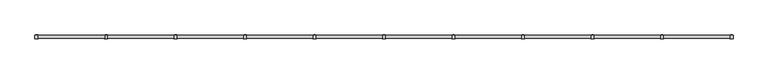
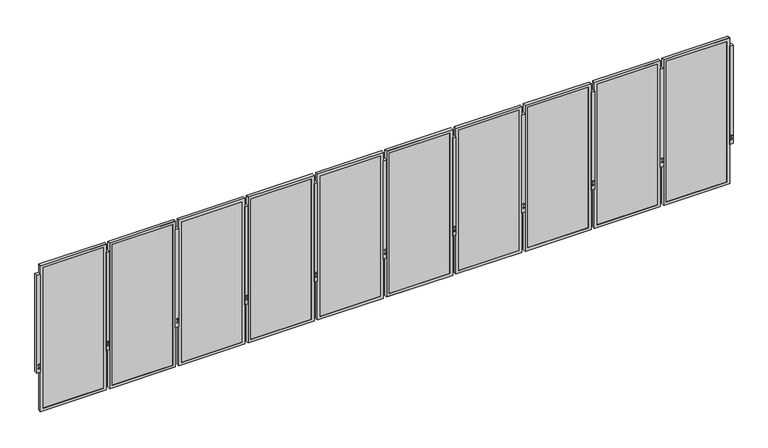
"""IFC4 building model written with IfcOpenShell, lengths in millimetres: railing geometry."""

from ifc_helpers import new_model, si_unit, frame, origin, place, context, project, spatial, polyline, outline, extrude, faceted_brep, source, transform, mapped, element, save


def railing_7f5f2e83(model_context):
    return source(origin(), model_context, "Body", "SolidModel", [
        extrude(outline(polyline([(-3162.0931556, -37308.528618), (-3111.2931556, -37308.528618), (-3111.2931556, -37359.328618), (-3162.0931556, -37359.328618), (-3162.0931556, -37308.528618)])), frame((0.0, 0.0, -609.6), z_axis=(0.0, 0.0, 1.0), x_axis=(1.0, 0.0, 0.0)), (0.0, 0.0, 1.0), 1524.0),
        extrude(outline(polyline([(-530.1129981, -3147.1137258), (-542.3802561, -3143.8267239), (-545.667258, -3131.5594659), (-536.6870019, -3122.5792098), (-524.4197439, -3125.8662117), (-521.132742, -3138.1334696), (-530.1129981, -3147.1137258)])), frame((0.0, -37361.1753058, 0.0), z_axis=(0.0, 1.0, 0.0), x_axis=(0.0, 0.0, 1.0)), (0.0, 0.0, 1.0), 54.4933756),
        extrude(outline(polyline([(-479.3129981, -3147.1137258), (-491.5802561, -3143.8267239), (-494.867258, -3131.5594659), (-485.8870019, -3122.5792098), (-473.6197439, -3125.8662117), (-470.332742, -3138.1334696), (-479.3129981, -3147.1137258)])), frame((0.0, -37361.1753058, 0.0), z_axis=(0.0, 1.0, 0.0), x_axis=(0.0, 0.0, 1.0)), (0.0, 0.0, 1.0), 54.4933756),
        faceted_brep([(-4128.497609, -37355.721818, -1222.375), (-3160.122609, -37355.721818, -1222.375), (-3160.122609, -37355.721818, 1044.575), (-4128.497609, -37355.721818, 1044.575), (-4087.222609, -37355.721818, 1003.3), (-3201.397609, -37355.721818, 1003.3), (-3201.397609, -37355.721818, -1181.1), (-4087.222609, -37355.721818, -1181.1), (-4087.222609, -37352.978618, 1003.3), (-4087.222609, -37352.978618, -1181.1), (-4128.497609, -37311.8485215, 1044.575), (-4128.497609, -37311.8485215, -1222.375), (-4125.322609, -37311.8485215, 1041.4), (-4125.322609, -37352.978618, 1041.4), (-4125.322609, -37352.978618, -1219.2), (-4125.322609, -37311.8485215, -1219.2), (-3201.397609, -37352.978618, -1181.1), (-3160.122609, -37311.8485215, -1222.375), (-3163.297609, -37352.978618, -1219.2), (-3163.297609, -37311.8485215, -1219.2), (-3201.397609, -37352.978618, 1003.3), (-3160.122609, -37311.8485215, 1044.575), (-3163.297609, -37352.978618, 1041.4), (-3163.297609, -37311.8485215, 1041.4)], [[[0, 1, 2, 3], [4, 5, 6, 7]], [[8, 4, 7, 9]], [[3, 10, 11, 0]], [[12, 13, 14, 15]], [[9, 7, 6, 16]], [[0, 11, 17, 1]], [[15, 14, 18, 19]], [[16, 6, 5, 20]], [[1, 17, 21, 2]], [[19, 18, 22, 23]], [[20, 5, 4, 8]], [[10, 21, 17, 11], [15, 19, 23, 12]], [[2, 21, 10, 3]], [[13, 22, 18, 14], [9, 16, 20, 8]], [[23, 22, 13, 12]]]),
        extrude(outline(polyline([(-4125.322609, -37343.453618), (-3163.297609, -37343.453618), (-3163.297609, -37352.978618), (-4125.322609, -37352.978618), (-4125.322609, -37343.453618)])), frame((0.0, 0.0, -1219.2), z_axis=(0.0, 0.0, 1.0), x_axis=(1.0, 0.0, 0.0)), (0.0, 0.0, 1.0), 2260.6),
        extrude(outline(polyline([(-4179.6806556, -37308.528618), (-4128.8806556, -37308.528618), (-4128.8806556, -37359.328618), (-4179.6806556, -37359.328618), (-4179.6806556, -37308.528618)])), frame((0.0, 0.0, -609.6), z_axis=(0.0, 0.0, 1.0), x_axis=(1.0, 0.0, 0.0)), (0.0, 0.0, 1.0), 1524.0),
        extrude(outline(polyline([(-530.1129981, -4164.7012258), (-542.3802561, -4161.4142239), (-545.667258, -4149.1469659), (-536.6870019, -4140.1667098), (-524.4197439, -4143.4537117), (-521.132742, -4155.7209696), (-530.1129981, -4164.7012258)])), frame((0.0, -37361.1753058, 0.0), z_axis=(0.0, 1.0, 0.0), x_axis=(0.0, 0.0, 1.0)), (0.0, 0.0, 1.0), 54.4933756),
        extrude(outline(polyline([(-479.3129981, -4164.7012258), (-491.5802561, -4161.4142239), (-494.867258, -4149.1469659), (-485.8870019, -4140.1667098), (-473.6197439, -4143.4537117), (-470.332742, -4155.7209696), (-479.3129981, -4164.7012258)])), frame((0.0, -37361.1753058, 0.0), z_axis=(0.0, 1.0, 0.0), x_axis=(0.0, 0.0, 1.0)), (0.0, 0.0, 1.0), 54.4933756),
        faceted_brep([(-5146.085109, -37355.721818, -1222.375), (-4177.710109, -37355.721818, -1222.375), (-4177.710109, -37355.721818, 1044.575), (-5146.085109, -37355.721818, 1044.575), (-5104.810109, -37355.721818, 1003.3), (-4218.985109, -37355.721818, 1003.3), (-4218.985109, -37355.721818, -1181.1), (-5104.810109, -37355.721818, -1181.1), (-5104.810109, -37352.978618, 1003.3), (-5104.810109, -37352.978618, -1181.1), (-5146.085109, -37311.8485215, 1044.575), (-5146.085109, -37311.8485215, -1222.375), (-5142.910109, -37311.8485215, 1041.4), (-5142.910109, -37352.978618, 1041.4), (-5142.910109, -37352.978618, -1219.2), (-5142.910109, -37311.8485215, -1219.2), (-4218.985109, -37352.978618, -1181.1), (-4177.710109, -37311.8485215, -1222.375), (-4180.885109, -37352.978618, -1219.2), (-4180.885109, -37311.8485215, -1219.2), (-4218.985109, -37352.978618, 1003.3), (-4177.710109, -37311.8485215, 1044.575), (-4180.885109, -37352.978618, 1041.4), (-4180.885109, -37311.8485215, 1041.4)], [[[0, 1, 2, 3], [4, 5, 6, 7]], [[8, 4, 7, 9]], [[3, 10, 11, 0]], [[12, 13, 14, 15]], [[9, 7, 6, 16]], [[0, 11, 17, 1]], [[15, 14, 18, 19]], [[16, 6, 5, 20]], [[1, 17, 21, 2]], [[19, 18, 22, 23]], [[20, 5, 4, 8]], [[10, 21, 17, 11], [15, 19, 23, 12]], [[2, 21, 10, 3]], [[13, 22, 18, 14], [9, 16, 20, 8]], [[23, 22, 13, 12]]]),
        extrude(outline(polyline([(-5142.910109, -37343.453618), (-4180.885109, -37343.453618), (-4180.885109, -37352.978618), (-5142.910109, -37352.978618), (-5142.910109, -37343.453618)])), frame((0.0, 0.0, -1219.2), z_axis=(0.0, 0.0, 1.0), x_axis=(1.0, 0.0, 0.0)), (0.0, 0.0, 1.0), 2260.6),
        extrude(outline(polyline([(-5197.2681556, -37308.528618), (-5146.4681556, -37308.528618), (-5146.4681556, -37359.328618), (-5197.2681556, -37359.328618), (-5197.2681556, -37308.528618)])), frame((0.0, 0.0, -609.6), z_axis=(0.0, 0.0, 1.0), x_axis=(1.0, 0.0, 0.0)), (0.0, 0.0, 1.0), 1524.0),
        extrude(outline(polyline([(-530.1129981, -5182.2887258), (-542.3802561, -5179.0017239), (-545.667258, -5166.7344659), (-536.6870019, -5157.7542098), (-524.4197439, -5161.0412117), (-521.132742, -5173.3084696), (-530.1129981, -5182.2887258)])), frame((0.0, -37361.1753058, 0.0), z_axis=(0.0, 1.0, 0.0), x_axis=(0.0, 0.0, 1.0)), (0.0, 0.0, 1.0), 54.4933756),
        extrude(outline(polyline([(-479.3129981, -5182.2887258), (-491.5802561, -5179.0017239), (-494.867258, -5166.7344659), (-485.8870019, -5157.7542098), (-473.6197439, -5161.0412117), (-470.332742, -5173.3084696), (-479.3129981, -5182.2887258)])), frame((0.0, -37361.1753058, 0.0), z_axis=(0.0, 1.0, 0.0), x_axis=(0.0, 0.0, 1.0)), (0.0, 0.0, 1.0), 54.4933756),
        faceted_brep([(-6163.672609, -37355.721818, -1222.375), (-5195.297609, -37355.721818, -1222.375), (-5195.297609, -37355.721818, 1044.575), (-6163.672609, -37355.721818, 1044.575), (-6122.397609, -37355.721818, 1003.3), (-5236.572609, -37355.721818, 1003.3), (-5236.572609, -37355.721818, -1181.1), (-6122.397609, -37355.721818, -1181.1), (-6122.397609, -37352.978618, 1003.3), (-6122.397609, -37352.978618, -1181.1), (-6163.672609, -37311.8485215, 1044.575), (-6163.672609, -37311.8485215, -1222.375), (-6160.497609, -37311.8485215, 1041.4), (-6160.497609, -37352.978618, 1041.4), (-6160.497609, -37352.978618, -1219.2), (-6160.497609, -37311.8485215, -1219.2), (-5236.572609, -37352.978618, -1181.1), (-5195.297609, -37311.8485215, -1222.375), (-5198.472609, -37352.978618, -1219.2), (-5198.472609, -37311.8485215, -1219.2), (-5236.572609, -37352.978618, 1003.3), (-5195.297609, -37311.8485215, 1044.575), (-5198.472609, -37352.978618, 1041.4), (-5198.472609, -37311.8485215, 1041.4)], [[[0, 1, 2, 3], [4, 5, 6, 7]], [[8, 4, 7, 9]], [[3, 10, 11, 0]], [[12, 13, 14, 15]], [[9, 7, 6, 16]], [[0, 11, 17, 1]], [[15, 14, 18, 19]], [[16, 6, 5, 20]], [[1, 17, 21, 2]], [[19, 18, 22, 23]], [[20, 5, 4, 8]], [[10, 21, 17, 11], [15, 19, 23, 12]], [[2, 21, 10, 3]], [[13, 22, 18, 14], [9, 16, 20, 8]], [[23, 22, 13, 12]]]),
        extrude(outline(polyline([(-6160.497609, -37343.453618), (-5198.472609, -37343.453618), (-5198.472609, -37352.978618), (-6160.497609, -37352.978618), (-6160.497609, -37343.453618)])), frame((0.0, 0.0, -1219.2), z_axis=(0.0, 0.0, 1.0), x_axis=(1.0, 0.0, 0.0)), (0.0, 0.0, 1.0), 2260.6),
        extrude(outline(polyline([(-6214.8556556, -37308.528618), (-6164.0556556, -37308.528618), (-6164.0556556, -37359.328618), (-6214.8556556, -37359.328618), (-6214.8556556, -37308.528618)])), frame((0.0, 0.0, -609.6), z_axis=(0.0, 0.0, 1.0), x_axis=(1.0, 0.0, 0.0)), (0.0, 0.0, 1.0), 1524.0),
        extrude(outline(polyline([(-530.1129981, -6199.8762258), (-542.3802561, -6196.5892239), (-545.667258, -6184.3219659), (-536.6870019, -6175.3417098), (-524.4197439, -6178.6287117), (-521.132742, -6190.8959696), (-530.1129981, -6199.8762258)])), frame((0.0, -37361.1753058, 0.0), z_axis=(0.0, 1.0, 0.0), x_axis=(0.0, 0.0, 1.0)), (0.0, 0.0, 1.0), 54.4933756),
        extrude(outline(polyline([(-479.3129981, -6199.8762258), (-491.5802561, -6196.5892239), (-494.867258, -6184.3219659), (-485.8870019, -6175.3417098), (-473.6197439, -6178.6287117), (-470.332742, -6190.8959696), (-479.3129981, -6199.8762258)])), frame((0.0, -37361.1753058, 0.0), z_axis=(0.0, 1.0, 0.0), x_axis=(0.0, 0.0, 1.0)), (0.0, 0.0, 1.0), 54.4933756),
        faceted_brep([(-7181.260109, -37355.721818, -1222.375), (-6212.885109, -37355.721818, -1222.375), (-6212.885109, -37355.721818, 1044.575), (-7181.260109, -37355.721818, 1044.575), (-7139.985109, -37355.721818, 1003.3), (-6254.160109, -37355.721818, 1003.3), (-6254.160109, -37355.721818, -1181.1), (-7139.985109, -37355.721818, -1181.1), (-7139.985109, -37352.978618, 1003.3), (-7139.985109, -37352.978618, -1181.1), (-7181.260109, -37311.8485215, 1044.575), (-7181.260109, -37311.8485215, -1222.375), (-7178.085109, -37311.8485215, 1041.4), (-7178.085109, -37352.978618, 1041.4), (-7178.085109, -37352.978618, -1219.2), (-7178.085109, -37311.8485215, -1219.2), (-6254.160109, -37352.978618, -1181.1), (-6212.885109, -37311.8485215, -1222.375), (-6216.060109, -37352.978618, -1219.2), (-6216.060109, -37311.8485215, -1219.2), (-6254.160109, -37352.978618, 1003.3), (-6212.885109, -37311.8485215, 1044.575), (-6216.060109, -37352.978618, 1041.4), (-6216.060109, -37311.8485215, 1041.4)], [[[0, 1, 2, 3], [4, 5, 6, 7]], [[8, 4, 7, 9]], [[3, 10, 11, 0]], [[12, 13, 14, 15]], [[9, 7, 6, 16]], [[0, 11, 17, 1]], [[15, 14, 18, 19]], [[16, 6, 5, 20]], [[1, 17, 21, 2]], [[19, 18, 22, 23]], [[20, 5, 4, 8]], [[10, 21, 17, 11], [15, 19, 23, 12]], [[2, 21, 10, 3]], [[13, 22, 18, 14], [9, 16, 20, 8]], [[23, 22, 13, 12]]]),
        extrude(outline(polyline([(-7178.085109, -37343.453618), (-6216.060109, -37343.453618), (-6216.060109, -37352.978618), (-7178.085109, -37352.978618), (-7178.085109, -37343.453618)])), frame((0.0, 0.0, -1219.2), z_axis=(0.0, 0.0, 1.0), x_axis=(1.0, 0.0, 0.0)), (0.0, 0.0, 1.0), 2260.6),
        extrude(outline(polyline([(-7232.4431556, -37308.528618), (-7181.6431556, -37308.528618), (-7181.6431556, -37359.328618), (-7232.4431556, -37359.328618), (-7232.4431556, -37308.528618)])), frame((0.0, 0.0, -609.6), z_axis=(0.0, 0.0, 1.0), x_axis=(1.0, 0.0, 0.0)), (0.0, 0.0, 1.0), 1524.0),
        extrude(outline(polyline([(-530.1129981, -7217.4637258), (-542.3802561, -7214.1767239), (-545.667258, -7201.9094659), (-536.6870019, -7192.9292098), (-524.4197439, -7196.2162117), (-521.132742, -7208.4834696), (-530.1129981, -7217.4637258)])), frame((0.0, -37361.1753058, 0.0), z_axis=(0.0, 1.0, 0.0), x_axis=(0.0, 0.0, 1.0)), (0.0, 0.0, 1.0), 54.4933756),
        extrude(outline(polyline([(-479.3129981, -7217.4637258), (-491.5802561, -7214.1767239), (-494.867258, -7201.9094659), (-485.8870019, -7192.9292098), (-473.6197439, -7196.2162117), (-470.332742, -7208.4834696), (-479.3129981, -7217.4637258)])), frame((0.0, -37361.1753058, 0.0), z_axis=(0.0, 1.0, 0.0), x_axis=(0.0, 0.0, 1.0)), (0.0, 0.0, 1.0), 54.4933756),
        faceted_brep([(-8198.847609, -37355.721818, -1222.375), (-7230.472609, -37355.721818, -1222.375), (-7230.472609, -37355.721818, 1044.575), (-8198.847609, -37355.721818, 1044.575), (-8157.572609, -37355.721818, 1003.3), (-7271.747609, -37355.721818, 1003.3), (-7271.747609, -37355.721818, -1181.1), (-8157.572609, -37355.721818, -1181.1), (-8157.572609, -37352.978618, 1003.3), (-8157.572609, -37352.978618, -1181.1), (-8198.847609, -37311.8485215, 1044.575), (-8198.847609, -37311.8485215, -1222.375), (-8195.672609, -37311.8485215, 1041.4), (-8195.672609, -37352.978618, 1041.4), (-8195.672609, -37352.978618, -1219.2), (-8195.672609, -37311.8485215, -1219.2), (-7271.747609, -37352.978618, -1181.1), (-7230.472609, -37311.8485215, -1222.375), (-7233.647609, -37352.978618, -1219.2), (-7233.647609, -37311.8485215, -1219.2), (-7271.747609, -37352.978618, 1003.3), (-7230.472609, -37311.8485215, 1044.575), (-7233.647609, -37352.978618, 1041.4), (-7233.647609, -37311.8485215, 1041.4)], [[[0, 1, 2, 3], [4, 5, 6, 7]], [[8, 4, 7, 9]], [[3, 10, 11, 0]], [[12, 13, 14, 15]], [[9, 7, 6, 16]], [[0, 11, 17, 1]], [[15, 14, 18, 19]], [[16, 6, 5, 20]], [[1, 17, 21, 2]], [[19, 18, 22, 23]], [[20, 5, 4, 8]], [[10, 21, 17, 11], [15, 19, 23, 12]], [[2, 21, 10, 3]], [[13, 22, 18, 14], [9, 16, 20, 8]], [[23, 22, 13, 12]]]),
        extrude(outline(polyline([(-8195.672609, -37343.453618), (-7233.647609, -37343.453618), (-7233.647609, -37352.978618), (-8195.672609, -37352.978618), (-8195.672609, -37343.453618)])), frame((0.0, 0.0, -1219.2), z_axis=(0.0, 0.0, 1.0), x_axis=(1.0, 0.0, 0.0)), (0.0, 0.0, 1.0), 2260.6),
        extrude(outline(polyline([(-8250.0306556, -37308.528618), (-8199.2306556, -37308.528618), (-8199.2306556, -37359.328618), (-8250.0306556, -37359.328618), (-8250.0306556, -37308.528618)])), frame((0.0, 0.0, -609.6), z_axis=(0.0, 0.0, 1.0), x_axis=(1.0, 0.0, 0.0)), (0.0, 0.0, 1.0), 1524.0),
        extrude(outline(polyline([(-530.1129981, -8235.0512258), (-542.3802561, -8231.7642239), (-545.667258, -8219.4969659), (-536.6870019, -8210.5167098), (-524.4197439, -8213.8037117), (-521.132742, -8226.0709696), (-530.1129981, -8235.0512258)])), frame((0.0, -37361.1753058, 0.0), z_axis=(0.0, 1.0, 0.0), x_axis=(0.0, 0.0, 1.0)), (0.0, 0.0, 1.0), 54.4933756),
        extrude(outline(polyline([(-479.3129981, -8235.0512258), (-491.5802561, -8231.7642239), (-494.867258, -8219.4969659), (-485.8870019, -8210.5167098), (-473.6197439, -8213.8037117), (-470.332742, -8226.0709696), (-479.3129981, -8235.0512258)])), frame((0.0, -37361.1753058, 0.0), z_axis=(0.0, 1.0, 0.0), x_axis=(0.0, 0.0, 1.0)), (0.0, 0.0, 1.0), 54.4933756),
        faceted_brep([(-9216.435109, -37355.721818, -1222.375), (-8248.060109, -37355.721818, -1222.375), (-8248.060109, -37355.721818, 1044.575), (-9216.435109, -37355.721818, 1044.575), (-9175.160109, -37355.721818, 1003.3), (-8289.335109, -37355.721818, 1003.3), (-8289.335109, -37355.721818, -1181.1), (-9175.160109, -37355.721818, -1181.1), (-9175.160109, -37352.978618, 1003.3), (-9175.160109, -37352.978618, -1181.1), (-9216.435109, -37311.8485215, 1044.575), (-9216.435109, -37311.8485215, -1222.375), (-9213.260109, -37311.8485215, 1041.4), (-9213.260109, -37352.978618, 1041.4), (-9213.260109, -37352.978618, -1219.2), (-9213.260109, -37311.8485215, -1219.2), (-8289.335109, -37352.978618, -1181.1), (-8248.060109, -37311.8485215, -1222.375), (-8251.235109, -37352.978618, -1219.2), (-8251.235109, -37311.8485215, -1219.2), (-8289.335109, -37352.978618, 1003.3), (-8248.060109, -37311.8485215, 1044.575), (-8251.235109, -37352.978618, 1041.4), (-8251.235109, -37311.8485215, 1041.4)], [[[0, 1, 2, 3], [4, 5, 6, 7]], [[8, 4, 7, 9]], [[3, 10, 11, 0]], [[12, 13, 14, 15]], [[9, 7, 6, 16]], [[0, 11, 17, 1]], [[15, 14, 18, 19]], [[16, 6, 5, 20]], [[1, 17, 21, 2]], [[19, 18, 22, 23]], [[20, 5, 4, 8]], [[10, 21, 17, 11], [15, 19, 23, 12]], [[2, 21, 10, 3]], [[13, 22, 18, 14], [9, 16, 20, 8]], [[23, 22, 13, 12]]]),
        extrude(outline(polyline([(-9213.260109, -37343.453618), (-8251.235109, -37343.453618), (-8251.235109, -37352.978618), (-9213.260109, -37352.978618), (-9213.260109, -37343.453618)])), frame((0.0, 0.0, -1219.2), z_axis=(0.0, 0.0, 1.0), x_axis=(1.0, 0.0, 0.0)), (0.0, 0.0, 1.0), 2260.6),
        extrude(outline(polyline([(-9267.6181556, -37308.528618), (-9216.8181556, -37308.528618), (-9216.8181556, -37359.328618), (-9267.6181556, -37359.328618), (-9267.6181556, -37308.528618)])), frame((0.0, 0.0, -609.6), z_axis=(0.0, 0.0, 1.0), x_axis=(1.0, 0.0, 0.0)), (0.0, 0.0, 1.0), 1524.0),
        extrude(outline(polyline([(-530.1129981, -9252.6387258), (-542.3802561, -9249.3517239), (-545.667258, -9237.0844659), (-536.6870019, -9228.1042098), (-524.4197439, -9231.3912117), (-521.132742, -9243.6584696), (-530.1129981, -9252.6387258)])), frame((0.0, -37361.1753058, 0.0), z_axis=(0.0, 1.0, 0.0), x_axis=(0.0, 0.0, 1.0)), (0.0, 0.0, 1.0), 54.4933756),
        extrude(outline(polyline([(-479.3129981, -9252.6387258), (-491.5802561, -9249.3517239), (-494.867258, -9237.0844659), (-485.8870019, -9228.1042098), (-473.6197439, -9231.3912117), (-470.332742, -9243.6584696), (-479.3129981, -9252.6387258)])), frame((0.0, -37361.1753058, 0.0), z_axis=(0.0, 1.0, 0.0), x_axis=(0.0, 0.0, 1.0)), (0.0, 0.0, 1.0), 54.4933756),
        faceted_brep([(-10234.022609, -37355.721818, -1222.375), (-9265.647609, -37355.721818, -1222.375), (-9265.647609, -37355.721818, 1044.575), (-10234.022609, -37355.721818, 1044.575), (-10192.747609, -37355.721818, 1003.3), (-9306.922609, -37355.721818, 1003.3), (-9306.922609, -37355.721818, -1181.1), (-10192.747609, -37355.721818, -1181.1), (-10192.747609, -37352.978618, 1003.3), (-10192.747609, -37352.978618, -1181.1), (-10234.022609, -37311.8485215, 1044.575), (-10234.022609, -37311.8485215, -1222.375), (-10230.847609, -37311.8485215, 1041.4), (-10230.847609, -37352.978618, 1041.4), (-10230.847609, -37352.978618, -1219.2), (-10230.847609, -37311.8485215, -1219.2), (-9306.922609, -37352.978618, -1181.1), (-9265.647609, -37311.8485215, -1222.375), (-9268.822609, -37352.978618, -1219.2), (-9268.822609, -37311.8485215, -1219.2), (-9306.922609, -37352.978618, 1003.3), (-9265.647609, -37311.8485215, 1044.575), (-9268.822609, -37352.978618, 1041.4), (-9268.822609, -37311.8485215, 1041.4)], [[[0, 1, 2, 3], [4, 5, 6, 7]], [[8, 4, 7, 9]], [[3, 10, 11, 0]], [[12, 13, 14, 15]], [[9, 7, 6, 16]], [[0, 11, 17, 1]], [[15, 14, 18, 19]], [[16, 6, 5, 20]], [[1, 17, 21, 2]], [[19, 18, 22, 23]], [[20, 5, 4, 8]], [[10, 21, 17, 11], [15, 19, 23, 12]], [[2, 21, 10, 3]], [[13, 22, 18, 14], [9, 16, 20, 8]], [[23, 22, 13, 12]]]),
        extrude(outline(polyline([(-10230.847609, -37343.453618), (-9268.822609, -37343.453618), (-9268.822609, -37352.978618), (-10230.847609, -37352.978618), (-10230.847609, -37343.453618)])), frame((0.0, 0.0, -1219.2), z_axis=(0.0, 0.0, 1.0), x_axis=(1.0, 0.0, 0.0)), (0.0, 0.0, 1.0), 2260.6),
        extrude(outline(polyline([(-10285.2056556, -37308.528618), (-10234.4056556, -37308.528618), (-10234.4056556, -37359.328618), (-10285.2056556, -37359.328618), (-10285.2056556, -37308.528618)])), frame((0.0, 0.0, -609.6), z_axis=(0.0, 0.0, 1.0), x_axis=(1.0, 0.0, 0.0)), (0.0, 0.0, 1.0), 1524.0),
        extrude(outline(polyline([(-530.1129981, -10270.2262258), (-542.3802561, -10266.9392239), (-545.667258, -10254.6719659), (-536.6870019, -10245.6917098), (-524.4197439, -10248.9787117), (-521.132742, -10261.2459696), (-530.1129981, -10270.2262258)])), frame((0.0, -37361.1753058, 0.0), z_axis=(0.0, 1.0, 0.0), x_axis=(0.0, 0.0, 1.0)), (0.0, 0.0, 1.0), 54.4933756),
        extrude(outline(polyline([(-479.3129981, -10270.2262258), (-491.5802561, -10266.9392239), (-494.867258, -10254.6719659), (-485.8870019, -10245.6917098), (-473.6197439, -10248.9787117), (-470.332742, -10261.2459696), (-479.3129981, -10270.2262258)])), frame((0.0, -37361.1753058, 0.0), z_axis=(0.0, 1.0, 0.0), x_axis=(0.0, 0.0, 1.0)), (0.0, 0.0, 1.0), 54.4933756),
        faceted_brep([(-11251.610109, -37355.721818, -1222.375), (-10283.235109, -37355.721818, -1222.375), (-10283.235109, -37355.721818, 1044.575), (-11251.610109, -37355.721818, 1044.575), (-11210.335109, -37355.721818, 1003.3), (-10324.510109, -37355.721818, 1003.3), (-10324.510109, -37355.721818, -1181.1), (-11210.335109, -37355.721818, -1181.1), (-11210.335109, -37352.978618, 1003.3), (-11210.335109, -37352.978618, -1181.1), (-11251.610109, -37311.8485215, 1044.575), (-11251.610109, -37311.8485215, -1222.375), (-11248.435109, -37311.8485215, 1041.4), (-11248.435109, -37352.978618, 1041.4), (-11248.435109, -37352.978618, -1219.2), (-11248.435109, -37311.8485215, -1219.2), (-10324.510109, -37352.978618, -1181.1), (-10283.235109, -37311.8485215, -1222.375), (-10286.410109, -37352.978618, -1219.2), (-10286.410109, -37311.8485215, -1219.2), (-10324.510109, -37352.978618, 1003.3), (-10283.235109, -37311.8485215, 1044.575), (-10286.410109, -37352.978618, 1041.4), (-10286.410109, -37311.8485215, 1041.4)], [[[0, 1, 2, 3], [4, 5, 6, 7]], [[8, 4, 7, 9]], [[3, 10, 11, 0]], [[12, 13, 14, 15]], [[9, 7, 6, 16]], [[0, 11, 17, 1]], [[15, 14, 18, 19]], [[16, 6, 5, 20]], [[1, 17, 21, 2]], [[19, 18, 22, 23]], [[20, 5, 4, 8]], [[10, 21, 17, 11], [15, 19, 23, 12]], [[2, 21, 10, 3]], [[13, 22, 18, 14], [9, 16, 20, 8]], [[23, 22, 13, 12]]]),
        extrude(outline(polyline([(-11248.435109, -37343.453618), (-10286.410109, -37343.453618), (-10286.410109, -37352.978618), (-11248.435109, -37352.978618), (-11248.435109, -37343.453618)])), frame((0.0, 0.0, -1219.2), z_axis=(0.0, 0.0, 1.0), x_axis=(1.0, 0.0, 0.0)), (0.0, 0.0, 1.0), 2260.6),
        extrude(outline(polyline([(-11302.7931556, -37308.528618), (-11251.9931556, -37308.528618), (-11251.9931556, -37359.328618), (-11302.7931556, -37359.328618), (-11302.7931556, -37308.528618)])), frame((0.0, 0.0, -609.6), z_axis=(0.0, 0.0, 1.0), x_axis=(1.0, 0.0, 0.0)), (0.0, 0.0, 1.0), 1524.0),
        extrude(outline(polyline([(-530.1129981, -11287.8137258), (-542.3802561, -11284.5267239), (-545.667258, -11272.2594659), (-536.6870019, -11263.2792098), (-524.4197439, -11266.5662117), (-521.132742, -11278.8334696), (-530.1129981, -11287.8137258)])), frame((0.0, -37361.1753058, 0.0), z_axis=(0.0, 1.0, 0.0), x_axis=(0.0, 0.0, 1.0)), (0.0, 0.0, 1.0), 54.4933756),
        extrude(outline(polyline([(-479.3129981, -11287.8137258), (-491.5802561, -11284.5267239), (-494.867258, -11272.2594659), (-485.8870019, -11263.2792098), (-473.6197439, -11266.5662117), (-470.332742, -11278.8334696), (-479.3129981, -11287.8137258)])), frame((0.0, -37361.1753058, 0.0), z_axis=(0.0, 1.0, 0.0), x_axis=(0.0, 0.0, 1.0)), (0.0, 0.0, 1.0), 54.4933756),
        faceted_brep([(-12269.197609, -37355.721818, -1222.375), (-11300.822609, -37355.721818, -1222.375), (-11300.822609, -37355.721818, 1044.575), (-12269.197609, -37355.721818, 1044.575), (-12227.922609, -37355.721818, 1003.3), (-11342.097609, -37355.721818, 1003.3), (-11342.097609, -37355.721818, -1181.1), (-12227.922609, -37355.721818, -1181.1), (-12227.922609, -37352.978618, 1003.3), (-12227.922609, -37352.978618, -1181.1), (-12269.197609, -37311.8485215, 1044.575), (-12269.197609, -37311.8485215, -1222.375), (-12266.022609, -37311.8485215, 1041.4), (-12266.022609, -37352.978618, 1041.4), (-12266.022609, -37352.978618, -1219.2), (-12266.022609, -37311.8485215, -1219.2), (-11342.097609, -37352.978618, -1181.1), (-11300.822609, -37311.8485215, -1222.375), (-11303.997609, -37352.978618, -1219.2), (-11303.997609, -37311.8485215, -1219.2), (-11342.097609, -37352.978618, 1003.3), (-11300.822609, -37311.8485215, 1044.575), (-11303.997609, -37352.978618, 1041.4), (-11303.997609, -37311.8485215, 1041.4)], [[[0, 1, 2, 3], [4, 5, 6, 7]], [[8, 4, 7, 9]], [[3, 10, 11, 0]], [[12, 13, 14, 15]], [[9, 7, 6, 16]], [[0, 11, 17, 1]], [[15, 14, 18, 19]], [[16, 6, 5, 20]], [[1, 17, 21, 2]], [[19, 18, 22, 23]], [[20, 5, 4, 8]], [[10, 21, 17, 11], [15, 19, 23, 12]], [[2, 21, 10, 3]], [[13, 22, 18, 14], [9, 16, 20, 8]], [[23, 22, 13, 12]]]),
        extrude(outline(polyline([(-12266.022609, -37343.453618), (-11303.997609, -37343.453618), (-11303.997609, -37352.978618), (-12266.022609, -37352.978618), (-12266.022609, -37343.453618)])), frame((0.0, 0.0, -1219.2), z_axis=(0.0, 0.0, 1.0), x_axis=(1.0, 0.0, 0.0)), (0.0, 0.0, 1.0), 2260.6),
        extrude(outline(polyline([(-12320.3806556, -37308.528618), (-12269.5806556, -37308.528618), (-12269.5806556, -37359.328618), (-12320.3806556, -37359.328618), (-12320.3806556, -37308.528618)])), frame((0.0, 0.0, -609.6), z_axis=(0.0, 0.0, 1.0), x_axis=(1.0, 0.0, 0.0)), (0.0, 0.0, 1.0), 1524.0),
        extrude(outline(polyline([(-530.1129981, -12305.4012258), (-542.3802561, -12302.1142239), (-545.667258, -12289.8469659), (-536.6870019, -12280.8667098), (-524.4197439, -12284.1537117), (-521.132742, -12296.4209696), (-530.1129981, -12305.4012258)])), frame((0.0, -37361.1753058, 0.0), z_axis=(0.0, 1.0, 0.0), x_axis=(0.0, 0.0, 1.0)), (0.0, 0.0, 1.0), 54.4933756),
        extrude(outline(polyline([(-479.3129981, -12305.4012258), (-491.5802561, -12302.1142239), (-494.867258, -12289.8469659), (-485.8870019, -12280.8667098), (-473.6197439, -12284.1537117), (-470.332742, -12296.4209696), (-479.3129981, -12305.4012258)])), frame((0.0, -37361.1753058, 0.0), z_axis=(0.0, 1.0, 0.0), x_axis=(0.0, 0.0, 1.0)), (0.0, 0.0, 1.0), 54.4933756),
        faceted_brep([(-13286.785109, -37355.721818, -1222.375), (-12318.410109, -37355.721818, -1222.375), (-12318.410109, -37355.721818, 1044.575), (-13286.785109, -37355.721818, 1044.575), (-13245.510109, -37355.721818, 1003.3), (-12359.685109, -37355.721818, 1003.3), (-12359.685109, -37355.721818, -1181.1), (-13245.510109, -37355.721818, -1181.1), (-13245.510109, -37352.978618, 1003.3), (-13245.510109, -37352.978618, -1181.1), (-13286.785109, -37311.8485215, 1044.575), (-13286.785109, -37311.8485215, -1222.375), (-13283.610109, -37311.8485215, 1041.4), (-13283.610109, -37352.978618, 1041.4), (-13283.610109, -37352.978618, -1219.2), (-13283.610109, -37311.8485215, -1219.2), (-12359.685109, -37352.978618, -1181.1), (-12318.410109, -37311.8485215, -1222.375), (-12321.585109, -37352.978618, -1219.2), (-12321.585109, -37311.8485215, -1219.2), (-12359.685109, -37352.978618, 1003.3), (-12318.410109, -37311.8485215, 1044.575), (-12321.585109, -37352.978618, 1041.4), (-12321.585109, -37311.8485215, 1041.4)], [[[0, 1, 2, 3], [4, 5, 6, 7]], [[8, 4, 7, 9]], [[3, 10, 11, 0]], [[12, 13, 14, 15]], [[9, 7, 6, 16]], [[0, 11, 17, 1]], [[15, 14, 18, 19]], [[16, 6, 5, 20]], [[1, 17, 21, 2]], [[19, 18, 22, 23]], [[20, 5, 4, 8]], [[10, 21, 17, 11], [15, 19, 23, 12]], [[2, 21, 10, 3]], [[13, 22, 18, 14], [9, 16, 20, 8]], [[23, 22, 13, 12]]]),
        extrude(outline(polyline([(-13283.610109, -37343.453618), (-12321.585109, -37343.453618), (-12321.585109, -37352.978618), (-13283.610109, -37352.978618), (-13283.610109, -37343.453618)])), frame((0.0, 0.0, -1219.2), z_axis=(0.0, 0.0, 1.0), x_axis=(1.0, 0.0, 0.0)), (0.0, 0.0, 1.0), 2260.6),
        extrude(outline(polyline([(-13337.9681556, -37308.528618), (-13287.1681556, -37308.528618), (-13287.1681556, -37359.328618), (-13337.9681556, -37359.328618), (-13337.9681556, -37308.528618)])), frame((0.0, 0.0, -609.6), z_axis=(0.0, 0.0, 1.0), x_axis=(1.0, 0.0, 0.0)), (0.0, 0.0, 1.0), 1524.0),
        extrude(outline(polyline([(-530.1129981, -13322.9887258), (-542.3802561, -13319.7017239), (-545.667258, -13307.4344659), (-536.6870019, -13298.4542098), (-524.4197439, -13301.7412117), (-521.132742, -13314.0084696), (-530.1129981, -13322.9887258)])), frame((0.0, -37361.1753058, 0.0), z_axis=(0.0, 1.0, 0.0), x_axis=(0.0, 0.0, 1.0)), (0.0, 0.0, 1.0), 54.4933756),
        extrude(outline(polyline([(-479.3129981, -13322.9887258), (-491.5802561, -13319.7017239), (-494.867258, -13307.4344659), (-485.8870019, -13298.4542098), (-473.6197439, -13301.7412117), (-470.332742, -13314.0084696), (-479.3129981, -13322.9887258)])), frame((0.0, -37361.1753058, 0.0), z_axis=(0.0, 1.0, 0.0), x_axis=(0.0, 0.0, 1.0)), (0.0, 0.0, 1.0), 54.4933756),
    ])


if __name__ == "__main__":
    model = new_model("IFC4")
    model_context = context("Model", 3, world=origin())
    ifc_project = project(units=[si_unit("LENGTHUNIT", "METRE", prefix="MILLI")], contexts=[model_context])
    site = spatial("IfcSite", under=ifc_project)
    building = spatial("IfcBuilding", under=site)
    placement = place(None, origin())
    railing_shape = railing_7f5f2e83(model_context)
    element("IfcRailing", 1, ObjectType="Railing - Amico Architectural - Expanded Mesh Railing - 9/16\" Circle - 11/16\" Staggered", at=placement, inside=building, context=model_context, shape_type="MappedRepresentation", body=[
        mapped(railing_shape, transform((0.0, 0.0, 0.0), x_axis=(1.0, 0.0, 0.0), y_axis=(0.0, 1.0, 0.0), z_axis=(0.0, 0.0, 1.0))),
    ])
    save(model, "model.ifc")
